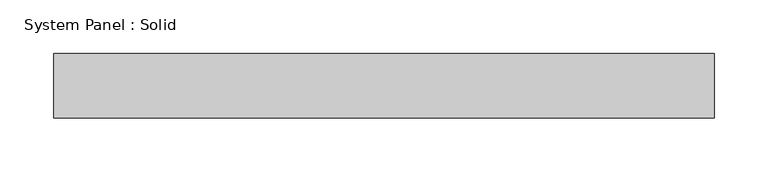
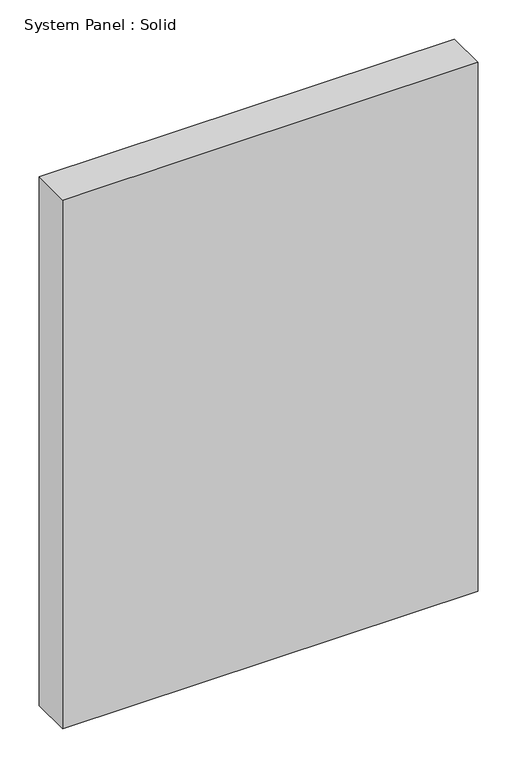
"""IFC4 building model written with IfcOpenShell, lengths in millimetres: plate geometry, System Panel : Solid."""

from ifc_helpers import new_model, si_unit, origin, origin_with_axes, place, context, project, spatial, polyline, outline, extrude, source, transform, mapped, element, save


def system_panel_solid_fdd704db(model_context):
    return source(origin(), model_context, "Body", "SweptSolid", [
        extrude(outline(polyline([(306.6666668, -10.5), (-306.6666668, -10.5), (-306.6666668, 49.5), (306.6666668, 49.5), (306.6666668, -10.5)])), origin_with_axes(), (0.0, 0.0, 1.0), 825.0),
    ])


if __name__ == "__main__":
    model = new_model("IFC4")
    model_context = context("Model", 3, world=origin())
    ifc_project = project(units=[si_unit("LENGTHUNIT", "METRE", prefix="MILLI")], contexts=[model_context])
    site = spatial("IfcSite", under=ifc_project)
    building = spatial("IfcBuilding", under=site)
    placement = place(None, origin())
    system_panel_solid_shape = system_panel_solid_fdd704db(model_context)
    element("IfcPlate", 1, ObjectType="System Panel : Solid", at=placement, inside=building, context=model_context, shape_type="MappedRepresentation", body=[
        mapped(system_panel_solid_shape, transform((0.0, 0.0, 0.0), x_axis=(1.0, 0.0, 0.0), y_axis=(0.0, 1.0, 0.0), z_axis=(0.0, 0.0, 1.0))),
    ])
    save(model, "model.ifc")
